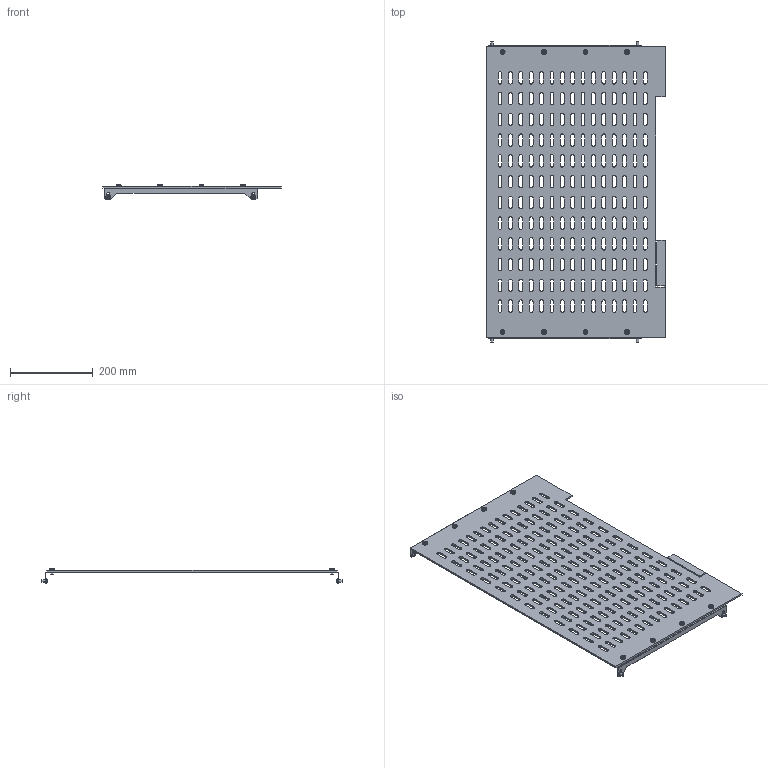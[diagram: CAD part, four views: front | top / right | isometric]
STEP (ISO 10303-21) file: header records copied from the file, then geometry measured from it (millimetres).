
FILE_DESCRIPTION (( 'STEP AP214' ), '1' );
FILE_NAME ('FO-00-3BEFW-080-040 Êîìïëåêò ñåêöèîíèðîâàíèÿ 3b äëÿ ARMAT ACB òèïîðàçìåð EIIF âûêàòíîãî èñïîëíåíèÿ 3II4P 800õ400 â øêàô ãëóáèíîé 800 ìì.STEP', '2025-08-12T07:25:16', ( '' ), ( '' ), 'SwSTEP 2.0', 'SolidWorks 2023', '' );
FILE_SCHEMA (( 'AUTOMOTIVE_DESIGN' ));
Length unit declared in the file: millimetre
Products named in the file (3): FO-00-3BEFW-080-040 Комплект секционирования 3b для ARMAT ACB типоразмер EIIF выкатного исполнения 3II4P 800х400 в шкаф глубиной 800 мм; 2хМ6х10x800; Комплект секционирования 3b для ARMAT ACB типоразмер EIIF выкатного исполнения 3II4P 800х400 в шкаф глубиной 800 мм
Assembly tree (3 placements, depth 2):
  FO-00-3BEFW-080-040 Комплект секционирования 3b для ARMAT ACB типоразмер EIIF выкатного исполнения 3II4P 800х400 в шкаф глубиной 800 мм
    Комплект секционирования 3b для ARMAT ACB типоразмер EIIF выкатного исполнения 3II4P 800х400 в шкаф глубиной 800 мм
    2хМ6х10x800  x2
Bounding box: 430 x 725 x 37 mm (x, y, z)
Volume: 1039029.1 mm3; surface area: 587099.7 mm2
Topology: 5 solids, 13 shells, 1206 faces, 3364 edges, 2212 vertices
Faces by surface type: cylinder 632, plane 486, cone 40, torus 40, sphere 8
Entity records: 38339 total; most frequent: DIRECTION 6774, CARTESIAN_POINT 6640, ORIENTED_EDGE 6452, EDGE_CURVE 3226, AXIS2_PLACEMENT_3D 2426, VERTEX_POINT 2124, LINE 1922, VECTOR 1922
